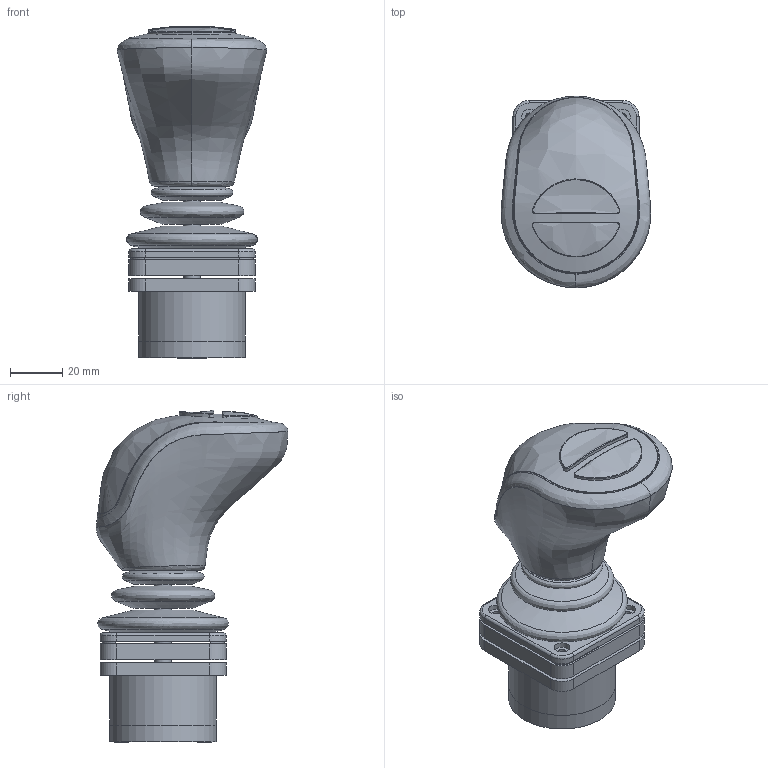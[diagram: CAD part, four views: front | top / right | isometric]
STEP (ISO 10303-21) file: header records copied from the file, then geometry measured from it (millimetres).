
FILE_DESCRIPTION (( 'STEP AP203' ), '1' );
FILE_NAME ('3D_TRY100_551Exx1.STEP', '2020-01-20T11:43:03', ( '' ), ( '' ), 'SwSTEP 2.0', 'SolidWorks 2019', '' );
FILE_SCHEMA (( 'CONFIG_CONTROL_DESIGN' ));
Length unit declared in the file: millimetre
Products named in the file (1): 3D_TRY100_551Exx1
Bounding box: 57.36 x 73.42 x 127.12 mm (x, y, z)
Surface area: 33858.8 mm2 (no closed solid volume)
Topology: 0 solids, 16 shells, 148 faces, 455 edges, 321 vertices
Faces by surface type: plane 56, cylinder 39, bspline 38, cone 15
Full cylindrical faces by diameter (mm): 3.048 x4, 5.944 x4, 6.198 x1, 7.493 x4, 40.894 x2
Entity records: 23275 total; most frequent: CARTESIAN_POINT 19557, ORIENTED_EDGE 686, DIRECTION 659, EDGE_CURVE 417, VERTEX_POINT 311, AXIS2_PLACEMENT_3D 246, EDGE_LOOP 227, VECTOR 167
